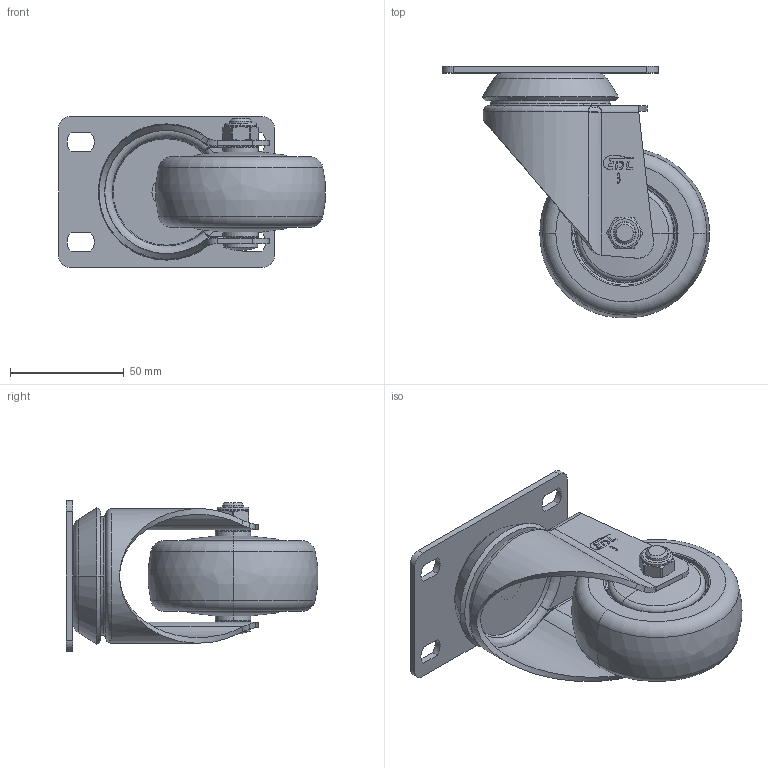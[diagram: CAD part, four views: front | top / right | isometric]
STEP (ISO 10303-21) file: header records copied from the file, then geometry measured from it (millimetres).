
FILE_DESCRIPTION((''),'2;1');
FILE_NAME('57213-573-77_ASM','2021-01-05T',('lenovo'),(''),'PRO/ENGINEER BY PARAMETRIC TECHNOLOGY CORPORATION, 2010280','PRO/ENGINEER BY PARAMETRIC TECHNOLOGY CORPORATION, 2010280','');
FILE_SCHEMA(('CONFIG_CONTROL_DESIGN'));
Length unit declared in the file: millimetre
Products named in the file (7): 5710-201; 5723-311; 5720-211; 573-77; 5710-020; 5710-031; 57213-573-77_ASM
Assembly tree (6 placements, depth 2):
  57213-573-77_ASM
    5710-201
    5723-311
    5720-211
    573-77
    5710-020
    5710-031
Bounding box: 117.55 x 110.85 x 66.5 mm (x, y, z)
Volume: 204090.9 mm3; surface area: 63002.1 mm2
Topology: 6 solids, 6 shells, 327 faces, 806 edges, 503 vertices
Faces by surface type: plane 146, cylinder 63, torus 44, bspline 36, cone 32, sphere 6
Entity records: 11127 total; most frequent: CARTESIAN_POINT 3295, ORIENTED_EDGE 1608, DIRECTION 1604, EDGE_CURVE 804, AXIS2_PLACEMENT_3D 587, VERTEX_POINT 503, VECTOR 430, LINE 430
